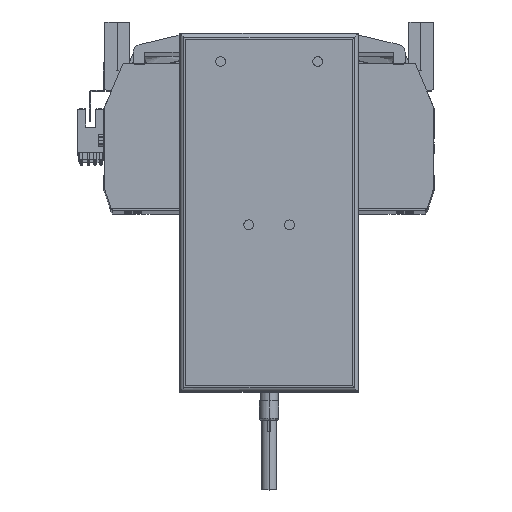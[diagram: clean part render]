
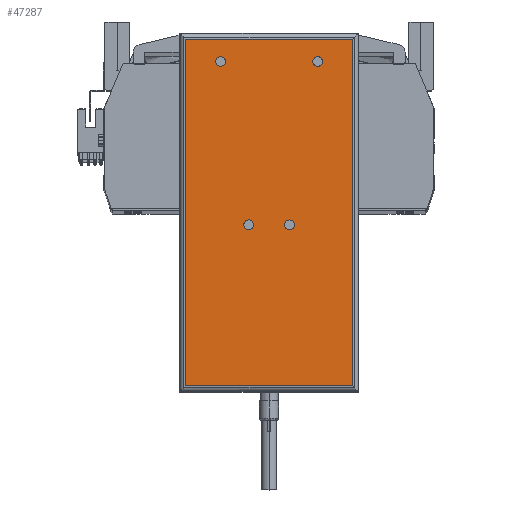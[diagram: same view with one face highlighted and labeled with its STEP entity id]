
A CAD part, top view. The second image highlights one B-rep face of the part: STEP entity #47287.
In plain terms, the highlighted planar face has unit normal (0, 0, 1) as drawn and (0, 0, -1) by its records, which use the part's own axes.
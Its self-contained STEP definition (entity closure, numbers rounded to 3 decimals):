
#1049 = EDGE_CURVE ( 'NONE', #48956, #17668, #25294, .T. ) ;
#1103 = EDGE_CURVE ( 'NONE', #17668, #48956, #44352, .T. ) ;
#1424 = EDGE_LOOP ( 'NONE', ( #18363, #21252 ) ) ;
#1587 = CARTESIAN_POINT ( 'NONE',  ( 25., 77.75, 0. ) ) ;
#1767 = DIRECTION ( 'NONE',  ( -1., 0., 0. ) ) ;
#2321 = ORIENTED_EDGE ( 'NONE', *, *, #37121, .T. ) ;
#2371 = CARTESIAN_POINT ( 'NONE',  ( -8., -6.25, 0. ) ) ;
#2614 = VERTEX_POINT ( 'NONE', #11002 ) ;
#3271 = CARTESIAN_POINT ( 'NONE',  ( 25., 77.75, 0. ) ) ;
#3593 = AXIS2_PLACEMENT_3D ( 'NONE', #22604, #30598, #10398 ) ;
#3672 = CARTESIAN_POINT ( 'NONE',  ( 10.5, -6.25, 0. ) ) ;
#3926 = EDGE_CURVE ( 'NONE', #30830, #28548, #4793, .T. ) ;
#4380 = DIRECTION ( 'NONE',  ( -1., 0., 0. ) ) ;
#4621 = ORIENTED_EDGE ( 'NONE', *, *, #50541, .F. ) ;
#4793 = LINE ( 'NONE', #32288, #36584 ) ;
#5763 = EDGE_CURVE ( 'NONE', #2614, #46479, #40312, .T. ) ;
#6455 = CARTESIAN_POINT ( 'NONE',  ( 22.5, 77.75, 0. ) ) ;
#6626 = EDGE_LOOP ( 'NONE', ( #26680, #4621 ) ) ;
#6792 = CIRCLE ( 'NONE', #31678, 2.5 ) ;
#6797 = EDGE_LOOP ( 'NONE', ( #29294, #37537 ) ) ;
#7156 = LINE ( 'NONE', #33162, #22381 ) ;
#7757 = VERTEX_POINT ( 'NONE', #6455 ) ;
#8000 = FACE_BOUND ( 'NONE', #1424, .T. ) ;
#8143 = DIRECTION ( 'NONE',  ( 1., 0., 0. ) ) ;
#9285 = FACE_BOUND ( 'NONE', #6626, .T. ) ;
#10214 = DIRECTION ( 'NONE',  ( 0., 0., -1. ) ) ;
#10398 = DIRECTION ( 'NONE',  ( -1., 0., 0. ) ) ;
#11002 = CARTESIAN_POINT ( 'NONE',  ( 8., -6.25, 0. ) ) ;
#13398 = AXIS2_PLACEMENT_3D ( 'NONE', #41723, #41200, #50397 ) ;
#13877 = PLANE ( 'NONE',  #37880 ) ;
#14084 = CARTESIAN_POINT ( 'NONE',  ( -13., -6.25, 0. ) ) ;
#14238 = DIRECTION ( 'NONE',  ( 1., 0., 0. ) ) ;
#14271 = DIRECTION ( 'NONE',  ( -1., 0., 0. ) ) ;
#15155 = AXIS2_PLACEMENT_3D ( 'NONE', #3271, #52064, #43883 ) ;
#16024 = CARTESIAN_POINT ( 'NONE',  ( 43., -92.25, 0. ) ) ;
#16155 = CARTESIAN_POINT ( 'NONE',  ( 43., 89.25, 0. ) ) ;
#16671 = CIRCLE ( 'NONE', #48503, 2.5 ) ;
#17070 = CARTESIAN_POINT ( 'NONE',  ( -27.5, 77.75, 0. ) ) ;
#17668 = VERTEX_POINT ( 'NONE', #14084 ) ;
#17772 = VERTEX_POINT ( 'NONE', #22594 ) ;
#18363 = ORIENTED_EDGE ( 'NONE', *, *, #49822, .F. ) ;
#18392 = AXIS2_PLACEMENT_3D ( 'NONE', #3672, #28114, #32036 ) ;
#19103 = CIRCLE ( 'NONE', #18392, 2.5 ) ;
#19138 = EDGE_CURVE ( 'NONE', #31901, #43946, #22595, .T. ) ;
#21252 = ORIENTED_EDGE ( 'NONE', *, *, #34099, .F. ) ;
#21564 = AXIS2_PLACEMENT_3D ( 'NONE', #30431, #10214, #14271 ) ;
#22381 = VECTOR ( 'NONE', #45406, 1000. ) ;
#22594 = CARTESIAN_POINT ( 'NONE',  ( 27.5, 77.75, 0. ) ) ;
#22595 = CIRCLE ( 'NONE', #13398, 2.5 ) ;
#22604 = CARTESIAN_POINT ( 'NONE',  ( -10.5, -6.25, 0. ) ) ;
#25294 = CIRCLE ( 'NONE', #3593, 2.5 ) ;
#25438 = LINE ( 'NONE', #16024, #45753 ) ;
#26549 = ORIENTED_EDGE ( 'NONE', *, *, #5763, .F. ) ;
#26680 = ORIENTED_EDGE ( 'NONE', *, *, #19138, .F. ) ;
#27053 = FACE_BOUND ( 'NONE', #6797, .T. ) ;
#27234 = VERTEX_POINT ( 'NONE', #50090 ) ;
#28114 = DIRECTION ( 'NONE',  ( 0., 0., -1. ) ) ;
#28548 = VERTEX_POINT ( 'NONE', #45617 ) ;
#28547 = EDGE_LOOP ( 'NONE', ( #29784, #2321, #31536, #38268 ) ) ;
#29289 = CARTESIAN_POINT ( 'NONE',  ( -22.5, 77.75, 0. ) ) ;
#29294 = ORIENTED_EDGE ( 'NONE', *, *, #1103, .F. ) ;
#29425 = LINE ( 'NONE', #40811, #37678 ) ;
#29599 = FACE_OUTER_BOUND ( 'NONE', #28547, .T. ) ;
#29784 = ORIENTED_EDGE ( 'NONE', *, *, #52176, .T. ) ;
#29967 = DIRECTION ( 'NONE',  ( 0., 0., -1. ) ) ;
#30207 = DIRECTION ( 'NONE',  ( 0., 0., 1. ) ) ;
#30297 = DIRECTION ( 'NONE',  ( 0., 0., -1. ) ) ;
#30431 = CARTESIAN_POINT ( 'NONE',  ( -10.5, -6.25, 0. ) ) ;
#30598 = DIRECTION ( 'NONE',  ( 0., 0., -1. ) ) ;
#30737 = CIRCLE ( 'NONE', #15155, 2.5 ) ;
#30830 = VERTEX_POINT ( 'NONE', #43516 ) ;
#31536 = ORIENTED_EDGE ( 'NONE', *, *, #3926, .T. ) ;
#31678 = AXIS2_PLACEMENT_3D ( 'NONE', #1587, #29967, #1767 ) ;
#31901 = VERTEX_POINT ( 'NONE', #17070 ) ;
#32036 = DIRECTION ( 'NONE',  ( -1., 0., 0. ) ) ;
#32288 = CARTESIAN_POINT ( 'NONE',  ( -43., -92.25, 0. ) ) ;
#33162 = CARTESIAN_POINT ( 'NONE',  ( -46., -89.25, 0. ) ) ;
#34099 = EDGE_CURVE ( 'NONE', #17772, #7757, #6792, .T. ) ;
#34387 = CARTESIAN_POINT ( 'NONE',  ( -25., 77.75, 0. ) ) ;
#35933 = ORIENTED_EDGE ( 'NONE', *, *, #51708, .F. ) ;
#36584 = VECTOR ( 'NONE', #44535, 1000. ) ;
#36863 = CARTESIAN_POINT ( 'NONE',  ( 10.5, -6.25, 0. ) ) ;
#37082 = EDGE_CURVE ( 'NONE', #28548, #41266, #29425, .T. ) ;
#37121 = EDGE_CURVE ( 'NONE', #27234, #30830, #7156, .T. ) ;
#37136 = AXIS2_PLACEMENT_3D ( 'NONE', #36863, #48927, #4380 ) ;
#37537 = ORIENTED_EDGE ( 'NONE', *, *, #1049, .F. ) ;
#37678 = VECTOR ( 'NONE', #8143, 1000. ) ;
#37880 = AXIS2_PLACEMENT_3D ( 'NONE', #50616, #30207, #14238 ) ;
#38268 = ORIENTED_EDGE ( 'NONE', *, *, #37082, .T. ) ;
#38848 = EDGE_LOOP ( 'NONE', ( #26549, #35933 ) ) ;
#40312 = CIRCLE ( 'NONE', #37136, 2.5 ) ;
#40811 = CARTESIAN_POINT ( 'NONE',  ( -46., 89.25, 0. ) ) ;
#41200 = DIRECTION ( 'NONE',  ( 0., 0., -1. ) ) ;
#41266 = VERTEX_POINT ( 'NONE', #16155 ) ;
#41723 = CARTESIAN_POINT ( 'NONE',  ( -25., 77.75, 0. ) ) ;
#43516 = CARTESIAN_POINT ( 'NONE',  ( -43., -89.25, 0. ) ) ;
#43883 = DIRECTION ( 'NONE',  ( -1., 0., 0. ) ) ;
#43946 = VERTEX_POINT ( 'NONE', #29289 ) ;
#44352 = CIRCLE ( 'NONE', #21564, 2.5 ) ;
#44535 = DIRECTION ( 'NONE',  ( 0., 1., 0. ) ) ;
#45406 = DIRECTION ( 'NONE',  ( -1., 0., 0. ) ) ;
#45617 = CARTESIAN_POINT ( 'NONE',  ( -43., 89.25, 0. ) ) ;
#45753 = VECTOR ( 'NONE', #51905, 1000. ) ;
#46252 = DIRECTION ( 'NONE',  ( -1., 0., 0. ) ) ;
#46479 = VERTEX_POINT ( 'NONE', #50844 ) ;
#47287 = ADVANCED_FACE ( 'NONE', ( #29599, #27053, #52470, #9285, #8000 ), #13877, .F. ) ;
#48503 = AXIS2_PLACEMENT_3D ( 'NONE', #34387, #30297, #46252 ) ;
#48927 = DIRECTION ( 'NONE',  ( 0., 0., -1. ) ) ;
#48956 = VERTEX_POINT ( 'NONE', #2371 ) ;
#49822 = EDGE_CURVE ( 'NONE', #7757, #17772, #30737, .T. ) ;
#50090 = CARTESIAN_POINT ( 'NONE',  ( 43., -89.25, 0. ) ) ;
#50397 = DIRECTION ( 'NONE',  ( -1., 0., 0. ) ) ;
#50541 = EDGE_CURVE ( 'NONE', #43946, #31901, #16671, .T. ) ;
#50616 = CARTESIAN_POINT ( 'NONE',  ( -46., -92.25, 0. ) ) ;
#50844 = CARTESIAN_POINT ( 'NONE',  ( 13., -6.25, 0. ) ) ;
#51708 = EDGE_CURVE ( 'NONE', #46479, #2614, #19103, .T. ) ;
#51905 = DIRECTION ( 'NONE',  ( 0., -1., 0. ) ) ;
#52064 = DIRECTION ( 'NONE',  ( 0., 0., -1. ) ) ;
#52176 = EDGE_CURVE ( 'NONE', #41266, #27234, #25438, .T. ) ;
#52470 = FACE_BOUND ( 'NONE', #38848, .T. ) ;
